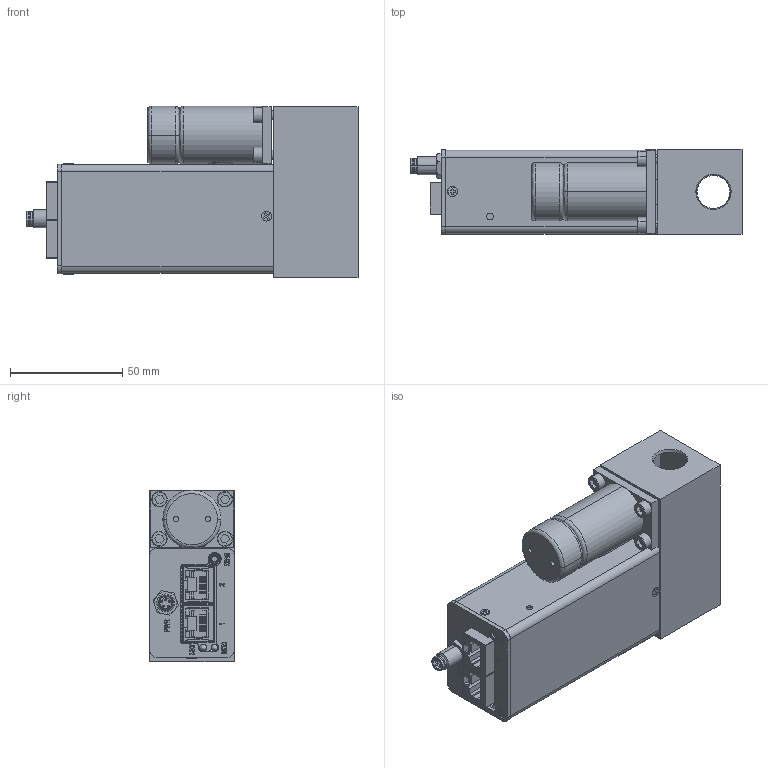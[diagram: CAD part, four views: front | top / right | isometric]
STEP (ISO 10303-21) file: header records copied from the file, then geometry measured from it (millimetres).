
FILE_DESCRIPTION (( 'STEP AP214' ), '1' );
FILE_NAME ('SLA5850-8-1A-1-A-REVB.STEP', '2021-08-19T17:38:56', ( '' ), ( '' ), 'SwSTEP 2.0', 'SolidWorks 2020', '' );
FILE_SCHEMA (( 'AUTOMOTIVE_DESIGN' ));
Length unit declared in the file: inch
Products named in the file (1): SLA5850-8-1A-1-A-REVB
Bounding box: 147.97 x 38.07 x 76.56 mm (x, y, z)
Surface area: 84138.6 mm2 (no closed solid volume)
Topology: 0 solids, 63 shells, 1687 faces, 4425 edges, 2889 vertices
Faces by surface type: plane 1148, cylinder 363, bspline 113, cone 63
Entity records: 78300 total; most frequent: CARTESIAN_POINT 14071, ORIENTED_EDGE 8822, DIRECTION 8203, EDGE_CURVE 4415, VECTOR 3335, LINE 3335, VERTEX_POINT 2889, AXIS2_PLACEMENT_3D 2434
